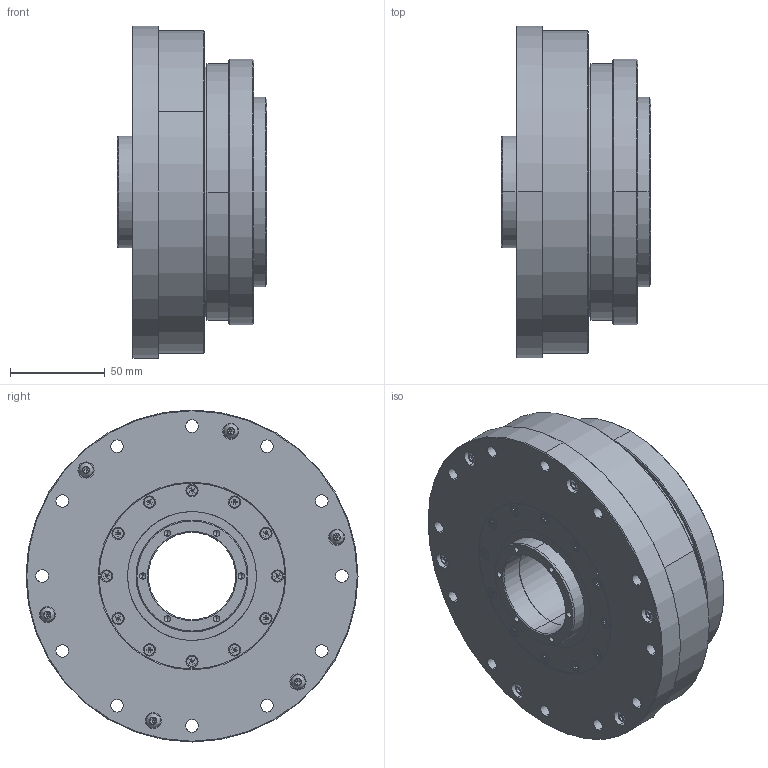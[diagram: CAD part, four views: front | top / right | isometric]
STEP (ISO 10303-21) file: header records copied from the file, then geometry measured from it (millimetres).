
FILE_DESCRIPTION (( 'STEP AP203' ), '1' );
FILE_NAME ('LHSG-40-XXX-CL-III.step', '2025-01-07T07:27:35', ( '' ), ( '' ), 'SwSTEP 2.0', 'SolidWorks 2023', '' );
FILE_SCHEMA (( 'CONFIG_CONTROL_DESIGN' ));
Length unit declared in the file: metre
Products named in the file (1): LHSG-40-XXX-CL-III
Bounding box: 79 x 175 x 175 mm (x, y, z)
Volume: 930941.4 mm3; surface area: 455211.9 mm2
Topology: 69 solids, 69 shells, 2315 faces, 6153 edges, 3758 vertices
Faces by surface type: cylinder 681, plane 656, bspline 584, cone 394
Entity records: 87107 total; most frequent: CARTESIAN_POINT 33247, ORIENTED_EDGE 11834, DIRECTION 10597, EDGE_CURVE 5917, AXIS2_PLACEMENT_3D 4378, VERTEX_POINT 3758, EDGE_LOOP 2733, CIRCLE 2646
